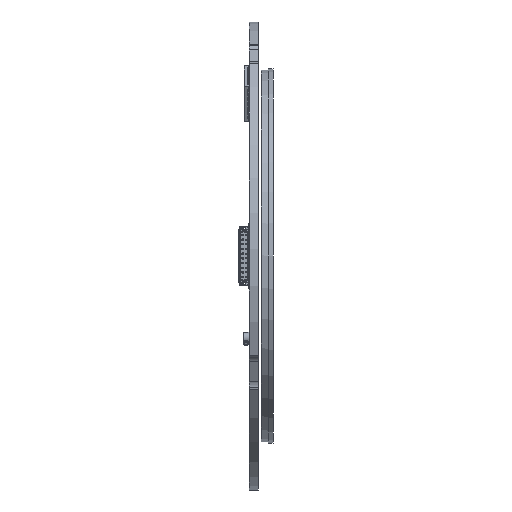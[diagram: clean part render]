
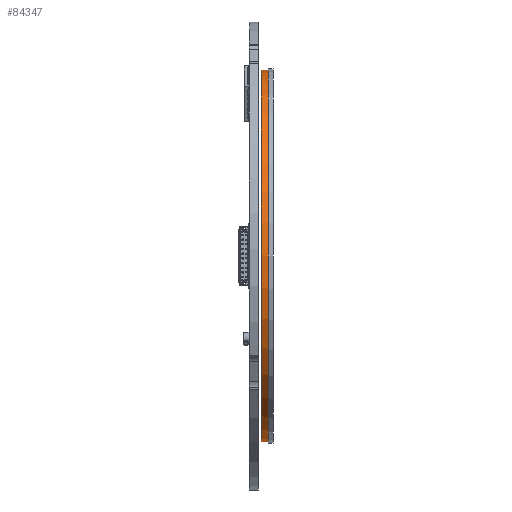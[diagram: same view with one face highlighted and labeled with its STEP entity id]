
A CAD part, left-side view. The second image highlights one B-rep face of the part: STEP entity #84347.
In plain terms, the highlighted cylindrical face has radius 31.75 mm (diameter 63.5 mm), a partial arc.
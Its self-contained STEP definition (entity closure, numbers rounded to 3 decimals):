
#658 = CARTESIAN_POINT ( 'NONE',  ( 0., 0.8, 31.75 ) ) ;
#1013 = EDGE_LOOP ( 'NONE', ( #45821, #58832, #17510, #50483, #36636, #5266 ) ) ;
#5266 = ORIENTED_EDGE ( 'NONE', *, *, #60044, .T. ) ;
#5573 = EDGE_CURVE ( 'NONE', #40536, #13094, #25124, .T. ) ;
#6645 = CARTESIAN_POINT ( 'NONE',  ( 0., 2., 0. ) ) ;
#6657 = AXIS2_PLACEMENT_3D ( 'NONE', #85544, #59440, #47218 ) ;
#7497 = FACE_OUTER_BOUND ( 'NONE', #1013, .T. ) ;
#7807 = EDGE_CURVE ( 'NONE', #13094, #47386, #41178, .T. ) ;
#8853 = DIRECTION ( 'NONE',  ( 0., 0., 1. ) ) ;
#10218 = VECTOR ( 'NONE', #71125, 1000. ) ;
#13094 = VERTEX_POINT ( 'NONE', #64235 ) ;
#14354 = VERTEX_POINT ( 'NONE', #38861 ) ;
#17510 = ORIENTED_EDGE ( 'NONE', *, *, #5573, .F. ) ;
#17913 = EDGE_CURVE ( 'NONE', #14354, #40536, #35195, .T. ) ;
#18786 = DIRECTION ( 'NONE',  ( 0., -1., 0. ) ) ;
#19739 = CARTESIAN_POINT ( 'NONE',  ( 0., 2., -31.75 ) ) ;
#22018 = VERTEX_POINT ( 'NONE', #67822 ) ;
#25004 = LINE ( 'NONE', #85356, #27520 ) ;
#25124 = LINE ( 'NONE', #44611, #10218 ) ;
#25846 = DIRECTION ( 'NONE',  ( 0., -1., 0. ) ) ;
#27520 = VECTOR ( 'NONE', #44922, 1000. ) ;
#32815 = CARTESIAN_POINT ( 'NONE',  ( 0., 0.8, 0. ) ) ;
#33572 = DIRECTION ( 'NONE',  ( 0., 1., 0. ) ) ;
#34939 = CIRCLE ( 'NONE', #52986, 31.75 ) ;
#35195 = CIRCLE ( 'NONE', #64351, 31.75 ) ;
#36636 = ORIENTED_EDGE ( 'NONE', *, *, #66784, .T. ) ;
#38861 = CARTESIAN_POINT ( 'NONE',  ( 0., 2.001, -31.75 ) ) ;
#39560 = DIRECTION ( 'NONE',  ( 0., 0., -1. ) ) ;
#40536 = VERTEX_POINT ( 'NONE', #81816 ) ;
#41178 = CIRCLE ( 'NONE', #6657, 31.75 ) ;
#44611 = CARTESIAN_POINT ( 'NONE',  ( -0.25, 2.001, -31.749 ) ) ;
#44922 = DIRECTION ( 'NONE',  ( 0., -1., 0. ) ) ;
#45821 = ORIENTED_EDGE ( 'NONE', *, *, #77819, .F. ) ;
#46234 = DIRECTION ( 'NONE',  ( 0., 0., 1. ) ) ;
#47218 = DIRECTION ( 'NONE',  ( 0., 0., 1. ) ) ;
#47386 = VERTEX_POINT ( 'NONE', #77816 ) ;
#50483 = ORIENTED_EDGE ( 'NONE', *, *, #17913, .F. ) ;
#52986 = AXIS2_PLACEMENT_3D ( 'NONE', #32815, #71919, #46234 ) ;
#58832 = ORIENTED_EDGE ( 'NONE', *, *, #7807, .F. ) ;
#59440 = DIRECTION ( 'NONE',  ( 0., 1., 0. ) ) ;
#60044 = EDGE_CURVE ( 'NONE', #22018, #71888, #34939, .T. ) ;
#64235 = CARTESIAN_POINT ( 'NONE',  ( -0.25, 2., -31.749 ) ) ;
#64351 = AXIS2_PLACEMENT_3D ( 'NONE', #73096, #33572, #8853 ) ;
#66784 = EDGE_CURVE ( 'NONE', #14354, #22018, #79256, .T. ) ;
#67822 = CARTESIAN_POINT ( 'NONE',  ( 0., 0.8, -31.75 ) ) ;
#71125 = DIRECTION ( 'NONE',  ( 0., -1., 0. ) ) ;
#71888 = VERTEX_POINT ( 'NONE', #658 ) ;
#71919 = DIRECTION ( 'NONE',  ( 0., 1., 0. ) ) ;
#72504 = AXIS2_PLACEMENT_3D ( 'NONE', #6645, #18786, #39560 ) ;
#73014 = CYLINDRICAL_SURFACE ( 'NONE', #72504, 31.75 ) ;
#73096 = CARTESIAN_POINT ( 'NONE',  ( 0., 2.001, 0. ) ) ;
#77816 = CARTESIAN_POINT ( 'NONE',  ( 0., 2., 31.75 ) ) ;
#77819 = EDGE_CURVE ( 'NONE', #47386, #71888, #25004, .T. ) ;
#79256 = LINE ( 'NONE', #19739, #85565 ) ;
#81816 = CARTESIAN_POINT ( 'NONE',  ( -0.25, 2.001, -31.749 ) ) ;
#84347 = ADVANCED_FACE ( 'NONE', ( #7497 ), #73014, .T. ) ;
#85356 = CARTESIAN_POINT ( 'NONE',  ( 0., 2., 31.75 ) ) ;
#85544 = CARTESIAN_POINT ( 'NONE',  ( 0., 2., 0. ) ) ;
#85565 = VECTOR ( 'NONE', #25846, 1000. ) ;
